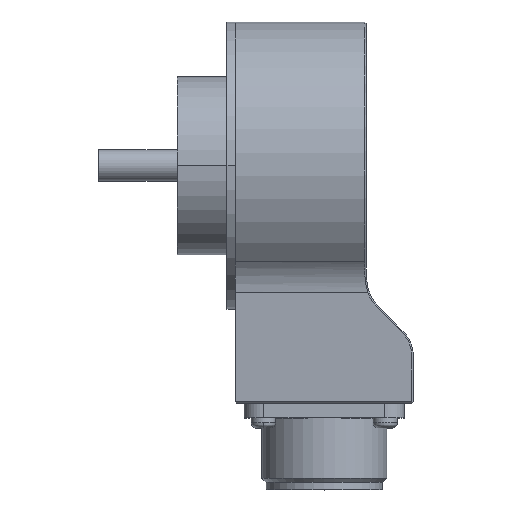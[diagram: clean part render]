
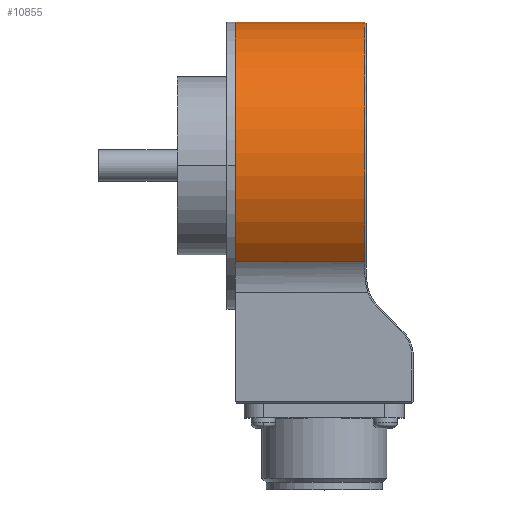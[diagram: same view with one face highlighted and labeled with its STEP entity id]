
A CAD part, top view. The second image highlights one B-rep face of the part: STEP entity #10855.
In plain terms, the highlighted cylindrical face has radius 29 mm (diameter 58 mm), a partial arc.
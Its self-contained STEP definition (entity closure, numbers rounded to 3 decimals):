
#609 = DIRECTION ( 'NONE',  ( 0., 1., 0. ) ) ;
#1031 = AXIS2_PLACEMENT_3D ( 'NONE', #3016, #11334, #609 ) ;
#1089 = CARTESIAN_POINT ( 'NONE',  ( 8.068, 54.423, 0. ) ) ;
#1395 = CARTESIAN_POINT ( 'NONE',  ( 8.068, 54.423, 0. ) ) ;
#1703 = EDGE_CURVE ( 'NONE', #7774, #7211, #8202, .T. ) ;
#1928 = CARTESIAN_POINT ( 'NONE',  ( 8.068, 25.423, 0. ) ) ;
#1977 = ORIENTED_EDGE ( 'NONE', *, *, #5018, .F. ) ;
#3016 = CARTESIAN_POINT ( 'NONE',  ( 8.068, 25.423, 0. ) ) ;
#3540 = AXIS2_PLACEMENT_3D ( 'NONE', #1928, #10172, #14778 ) ;
#3879 = VERTEX_POINT ( 'NONE', #13394 ) ;
#4007 = CARTESIAN_POINT ( 'NONE',  ( 34.268, 25.423, 0. ) ) ;
#4042 = ORIENTED_EDGE ( 'NONE', *, *, #13936, .T. ) ;
#4104 = EDGE_CURVE ( 'NONE', #7211, #14747, #14453, .T. ) ;
#5018 = EDGE_CURVE ( 'NONE', #7774, #3879, #7253, .T. ) ;
#6081 = CARTESIAN_POINT ( 'NONE',  ( 8.068, 6.004, 21.538 ) ) ;
#6537 = DIRECTION ( 'NONE',  ( 0., 1., 0. ) ) ;
#6700 = FACE_OUTER_BOUND ( 'NONE', #11266, .T. ) ;
#6826 = VECTOR ( 'NONE', #12968, 1000. ) ;
#7211 = VERTEX_POINT ( 'NONE', #6081 ) ;
#7253 = LINE ( 'NONE', #1395, #6826 ) ;
#7591 = ORIENTED_EDGE ( 'NONE', *, *, #1703, .T. ) ;
#7774 = VERTEX_POINT ( 'NONE', #1089 ) ;
#7935 = CYLINDRICAL_SURFACE ( 'NONE', #1031, 29. ) ;
#8202 = CIRCLE ( 'NONE', #3540, 29. ) ;
#8695 = CIRCLE ( 'NONE', #14604, 29. ) ;
#8844 = DIRECTION ( 'NONE',  ( -1., 0., 0. ) ) ;
#10172 = DIRECTION ( 'NONE',  ( 1., 0., 0. ) ) ;
#10855 = ADVANCED_FACE ( 'NONE', ( #6700 ), #7935, .T. ) ;
#11266 = EDGE_LOOP ( 'NONE', ( #1977, #7591, #14569, #4042 ) ) ;
#11334 = DIRECTION ( 'NONE',  ( 1., 0., 0. ) ) ;
#12968 = DIRECTION ( 'NONE',  ( 1., 0., 0. ) ) ;
#12974 = VECTOR ( 'NONE', #14298, 1000. ) ;
#13394 = CARTESIAN_POINT ( 'NONE',  ( 34.268, 54.423, 0. ) ) ;
#13936 = EDGE_CURVE ( 'NONE', #14747, #3879, #8695, .T. ) ;
#14298 = DIRECTION ( 'NONE',  ( 1., 0., 0. ) ) ;
#14453 = LINE ( 'NONE', #14523, #12974 ) ;
#14523 = CARTESIAN_POINT ( 'NONE',  ( 8.068, 6.004, 21.538 ) ) ;
#14569 = ORIENTED_EDGE ( 'NONE', *, *, #4104, .T. ) ;
#14604 = AXIS2_PLACEMENT_3D ( 'NONE', #4007, #8844, #6537 ) ;
#14747 = VERTEX_POINT ( 'NONE', #15260 ) ;
#14778 = DIRECTION ( 'NONE',  ( 0., 1., 0. ) ) ;
#15260 = CARTESIAN_POINT ( 'NONE',  ( 34.268, 6.004, 21.538 ) ) ;
